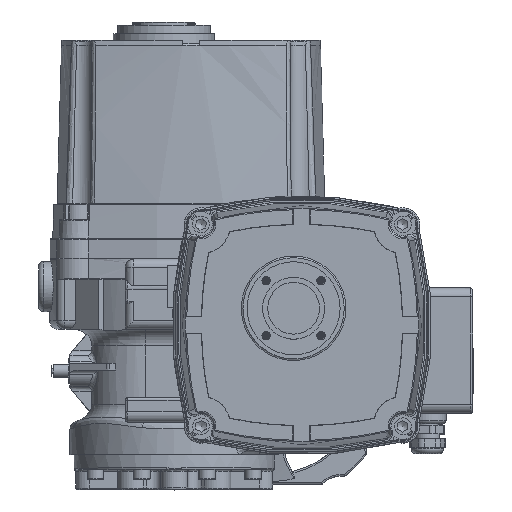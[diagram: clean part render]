
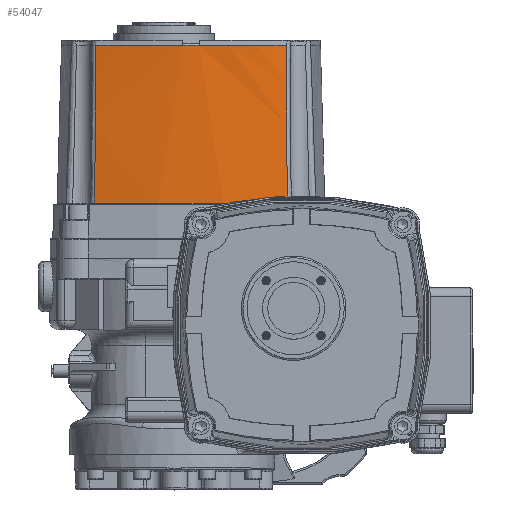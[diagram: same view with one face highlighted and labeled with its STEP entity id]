
A CAD part, top view. The second image highlights one B-rep face of the part: STEP entity #54047.
In plain terms, the highlighted conical face has half-angle 2 degrees and reference radius 282.052 mm.
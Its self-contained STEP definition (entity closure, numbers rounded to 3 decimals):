
#2700=ELLIPSE('',#58228,9109.265,7574.992);
#2731=ELLIPSE('',#58411,9109.712,7575.2);
#10602=CONICAL_SURFACE('',#58412,282.052,0.035);
#12163=FACE_OUTER_BOUND('',#15334,.T.);
#15334=EDGE_LOOP('',(#38408,#38409,#38410,#38411,#38412,#38413));
#18520=CIRCLE('',#57973,278.72);
#18618=CIRCLE('',#58128,282.018);
#18776=CIRCLE('',#58413,278.72);
#18777=CIRCLE('',#58414,278.72);
#21415=VERTEX_POINT('',#85664);
#21416=VERTEX_POINT('',#85666);
#21543=VERTEX_POINT('',#86536);
#21546=VERTEX_POINT('',#86549);
#21639=VERTEX_POINT('',#87392);
#21870=VERTEX_POINT('',#89150);
#27391=EDGE_CURVE('',#21416,#21415,#18520,.T.);
#27571=EDGE_CURVE('',#21543,#21546,#18618,.T.);
#27703=EDGE_CURVE('',#21546,#21639,#2700,.T.);
#27995=EDGE_CURVE('',#21870,#21543,#2731,.T.);
#27996=EDGE_CURVE('',#21870,#21416,#18776,.T.);
#27997=EDGE_CURVE('',#21415,#21639,#18777,.T.);
#38408=ORIENTED_EDGE('',*,*,#27571,.F.);
#38409=ORIENTED_EDGE('',*,*,#27995,.F.);
#38410=ORIENTED_EDGE('',*,*,#27996,.T.);
#38411=ORIENTED_EDGE('',*,*,#27391,.T.);
#38412=ORIENTED_EDGE('',*,*,#27997,.T.);
#38413=ORIENTED_EDGE('',*,*,#27703,.F.);
#54047=ADVANCED_FACE('',(#12163),#10602,.T.);
#57973=AXIS2_PLACEMENT_3D('',#85667,#65922,#65923);
#58128=AXIS2_PLACEMENT_3D('',#86553,#66265,#66266);
#58228=AXIS2_PLACEMENT_3D('',#87393,#66481,#66482);
#58411=AXIS2_PLACEMENT_3D('',#89179,#66936,#66937);
#58412=AXIS2_PLACEMENT_3D('',#89180,#66938,#66939);
#58413=AXIS2_PLACEMENT_3D('',#89181,#66940,#66941);
#58414=AXIS2_PLACEMENT_3D('',#89182,#66942,#66943);
#65922=DIRECTION('center_axis',(0.,-1.,0.));
#65923=DIRECTION('ref_axis',(-0.22,0.,0.975));
#66265=DIRECTION('center_axis',(0.,-1.,0.));
#66266=DIRECTION('ref_axis',(0.,0.,
1.));
#66481=DIRECTION('center_axis',(-0.205,0.035,0.978));
#66482=DIRECTION('ref_axis',(0.511,0.856,0.076));
#66936=DIRECTION('center_axis',(0.205,0.035,0.978));
#66937=DIRECTION('ref_axis',(0.512,-0.856,-0.076));
#66938=DIRECTION('center_axis',(0.,-1.,0.));
#66939=DIRECTION('ref_axis',(-0.22,0.,0.975));
#66940=DIRECTION('center_axis',(0.,-1.,0.));
#66941=DIRECTION('ref_axis',(-0.22,0.,0.975));
#66942=DIRECTION('center_axis',(0.,-1.,0.));
#66943=DIRECTION('ref_axis',(-0.22,0.,0.975));
#85664=CARTESIAN_POINT('',(5.,199.9,57.425));
#85666=CARTESIAN_POINT('',(15.,199.9,57.425));
#85667=CARTESIAN_POINT('Origin',(10.,199.9,-221.25));
#86536=CARTESIAN_POINT('',(67.715,105.465,54.799));
#86549=CARTESIAN_POINT('',(-47.715,105.465,54.799));
#86553=CARTESIAN_POINT('Origin',(10.,105.465,-221.25));
#87392=CARTESIAN_POINT('',(-47.044,199.9,51.57));
#87393=CARTESIAN_POINT('Origin',(-7900.381,-1259.312,-1538.584));
#89150=CARTESIAN_POINT('',(67.044,199.9,51.57));
#89179=CARTESIAN_POINT('Origin',(7920.782,-1259.651,-1538.656));
#89180=CARTESIAN_POINT('Origin',(10.,104.5,-221.25));
#89181=CARTESIAN_POINT('Origin',(10.,199.9,-221.25));
#89182=CARTESIAN_POINT('Origin',(10.,199.9,-221.25));
